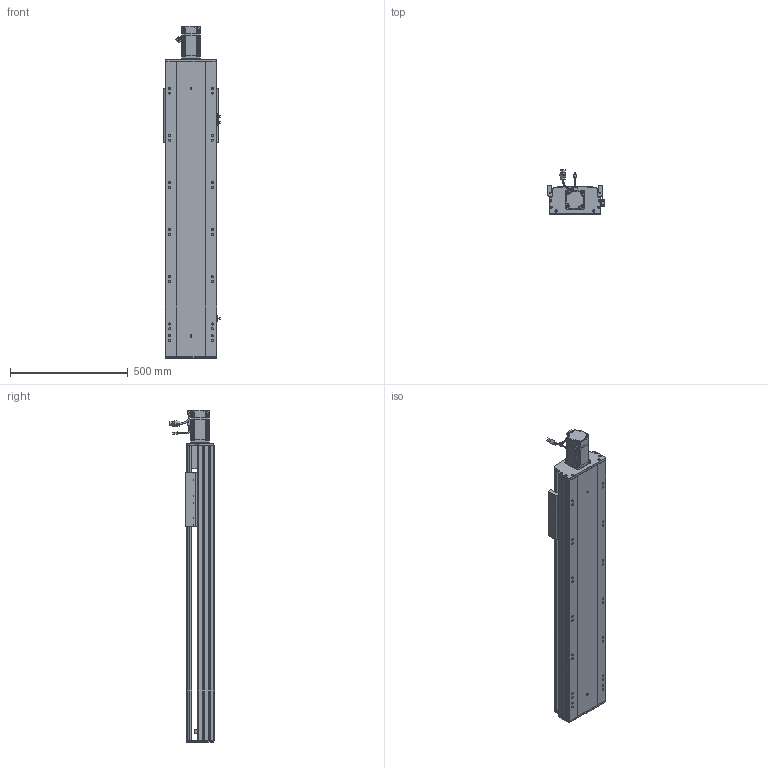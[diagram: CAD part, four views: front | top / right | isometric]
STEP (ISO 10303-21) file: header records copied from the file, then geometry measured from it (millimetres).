
FILE_DESCRIPTION (( 'STEP AP203' ), '1' );
FILE_NAME ('RY220-L2525-300-MK.SLDASM_850.step', '2022-07-04T02:57:45', ( '' ), ( '' ), 'SwSTEP 2.0', 'SolidWorks 2016', '' );
FILE_SCHEMA (( 'CONFIG_CONTROL_DESIGN' ));
Length unit declared in the file: millimetre
Products named in the file (12): 滅袉蝶18-15; RY220菁釱MK-300_850; RY220綴裔啣; RY220半封闭25-32螺母铝滑块; RY220ヶ裔啣; RY220-300-奻裔啣-MK_850; RY220-俋离672覜茼んえ; 覜茼ん672; 滅袉蝶18-12; RY220电机支撑座FK20（PCD90M6）; 怢湛750W_ECMA-CX0807ES; RY220-L2525-300-MK.SLDASM_850
Assembly tree (15 placements, depth 2):
  RY220-L2525-300-MK.SLDASM_850
    RY220菁釱MK-300_850
    RY220电机支撑座FK20（PCD90M6）
    怢湛750W_ECMA-CX0807ES
    滅袉蝶18-12  x2
    RY220ヶ裔啣
    RY220綴裔啣
    覜茼ん672  x3
    RY220半封闭25-32螺母铝滑块
    RY220-300-奻裔啣-MK_850
    RY220-俋离672覜茼んえ
    滅袉蝶18-15  x2
Bounding box: 238.7 x 187.27 x 1408.3 mm (x, y, z)
Volume: 11398365.9 mm3; surface area: 3116298.2 mm2
Topology: 16 solids, 16 shells, 2190 faces, 6074 edges, 3842 vertices
Faces by surface type: cylinder 984, plane 907, cone 237, bspline 36, sphere 16, torus 10
Entity records: 72114 total; most frequent: CARTESIAN_POINT 20579, ORIENTED_EDGE 10712, DIRECTION 10099, EDGE_CURVE 5356, AXIS2_PLACEMENT_3D 3547, VERTEX_POINT 3498, LINE 3005, VECTOR 3005
